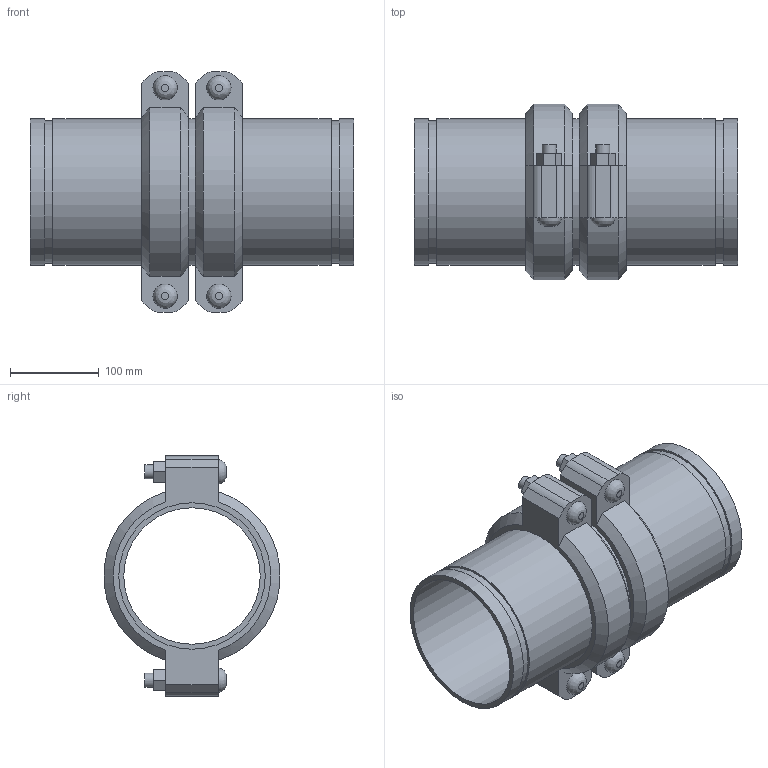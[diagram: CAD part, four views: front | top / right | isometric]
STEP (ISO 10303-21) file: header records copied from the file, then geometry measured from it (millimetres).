
FILE_DESCRIPTION(/* description */ ('VIC EXPANSION JOINT 2 COUPLINGS COMPRESSED STYLE 155 (OGS)','CAx-IF Rec.Pracs.---Representation and Presentation of Product Manufacturing Information (PMI)---4.0---2014-10-13'),/* implementation_level */ '2;1');
FILE_NAME(/* name */ 'C:\Users\kkamble\AppData\Roaming\Autodesk\ApplicationPlugins\Victaulic.Temp\A11\Victaulic_IPS_Expansion Joint_Compressed_2 Couplings_Style 155 (OGS)_06.0 (165.1) (150).stp',/* time_stamp */ '2021-06-27T00:23:50+02:00',/* author */ ('kkamble'),/* organization */ ('Victaulic'),/* preprocessor_version */ 'ST-DEVELOPER v17.2',/* originating_system */ 'Autodesk Inventor 2019',/* authorisation */ '');
FILE_SCHEMA (('AP242_MANAGED_MODEL_BASED_3D_ENGINEERING_MIM_LF { 1 0 10303 442 1 1 4 }'));
Length unit declared in the file: inch
Products named in the file (4): 155-06.0 (165.1); Nipple-06.0 (165.1); Nipple-06.0 (165.1)_1; 075_2_Coup-06.0 (165.1)
Assembly tree (5 placements, depth 2):
  155-06.0 (165.1)
    Nipple-06.0 (165.1)  x2
    Nipple-06.0 (165.1)_1
    075_2_Coup-06.0 (165.1)  x2
Bounding box: 364.49 x 198.42 x 270.76 mm (x, y, z)
Volume: 2353548.5 mm3; surface area: 610941 mm2
Topology: 5 solids, 9 shells, 150 faces, 356 edges, 252 vertices
Faces by surface type: plane 90, cylinder 48, cone 8, bspline 4
Full cylindrical faces by diameter (mm): 15.875 x8, 17.424 x4, 153.975 x3, 158.75 x2, 160.782 x6, 165.1 x13
Entity records: 2762 total; most frequent: CARTESIAN_POINT 489, DIRECTION 453, ORIENTED_EDGE 386, EDGE_CURVE 193, AXIS2_PLACEMENT_3D 180, VERTEX_POINT 138, EDGE_LOOP 107, LINE 93
